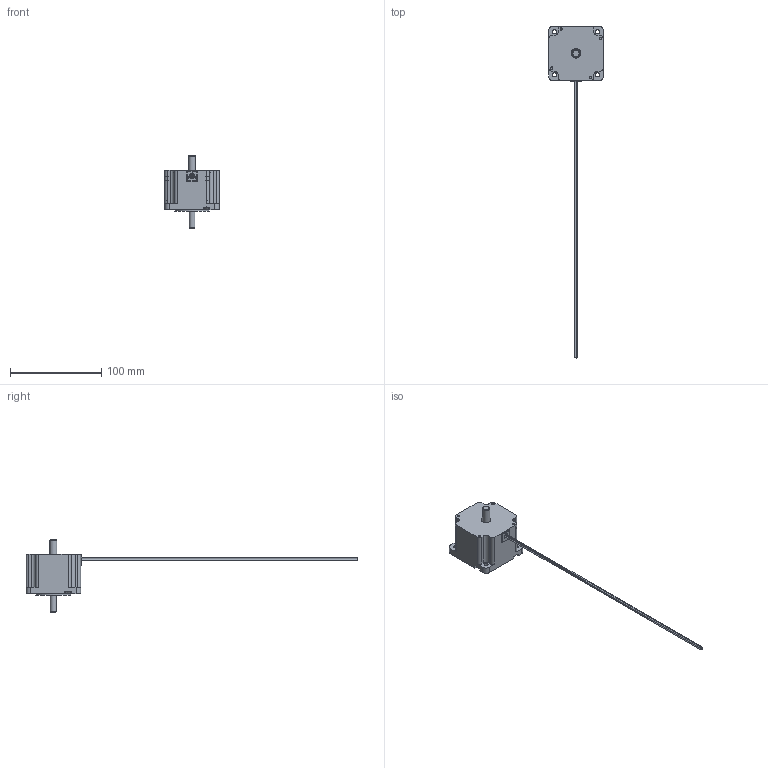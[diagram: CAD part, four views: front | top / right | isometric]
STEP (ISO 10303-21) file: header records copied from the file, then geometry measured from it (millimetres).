
FILE_DESCRIPTION((''),'2;1');
FILE_NAME('L:\3D ipt part for Web\Standard Motor\5818 Model\5818X-XXD.stp','2010-05-26T10:05:30',('hpham'),(''),'Autodesk Inventor 2010','Autodesk Inventor 2010','');
FILE_SCHEMA(('AUTOMOTIVE_DESIGN { 1 0 10303 214 1 1 1 1 }'));
Length unit declared in the file: inch
Products named in the file (1): 5818X-XXD
Bounding box: 60 x 364.8 x 79.97 mm (x, y, z)
Volume: 4247.1 mm3; surface area: 59933.9 mm2
Topology: 13 solids, 14 shells, 1238 faces, 4179 edges, 2757 vertices
Faces by surface type: plane 620, cylinder 553, bspline 38, torus 14, cone 13
Full cylindrical faces by diameter (mm): 1.27 x4, 2.997 x4, 3.302 x8, 3.4 x4, 4.5 x2, 5 x1, 5.5 x4, 6.35 x1, 7.7 x2, 8 x4, 10 x2, 10.5 x2, 12.05 x8, 13 x1, 17.95 x8, 18 x2, 22 x4, 32 x1, 38.1 x1, 39.09 x2, 39.6 x2
Entity records: 48345 total; most frequent: CARTESIAN_POINT 9979, ORIENTED_EDGE 8070, DIRECTION 7846, EDGE_CURVE 4035, AXIS2_PLACEMENT_3D 2734, VERTEX_POINT 2717, VECTOR 2378, LINE 2378
